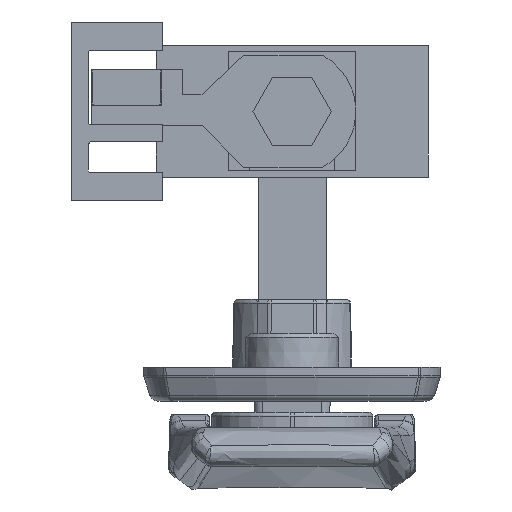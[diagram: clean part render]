
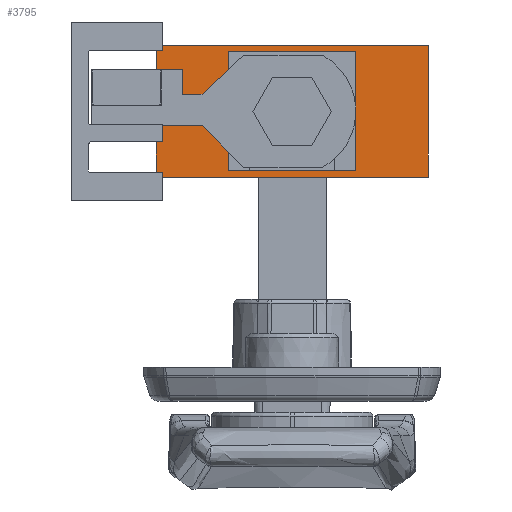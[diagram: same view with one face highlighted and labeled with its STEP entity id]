
A CAD part, front view. The second image highlights one B-rep face of the part: STEP entity #3795.
In plain terms, the highlighted planar face has unit normal (0, -1, 0).
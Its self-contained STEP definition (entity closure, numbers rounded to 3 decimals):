
#2016 = VECTOR ( 'NONE', #10980, 1000. ) ;
#2286 = VECTOR ( 'NONE', #13934, 1000. ) ;
#2289 = LINE ( 'NONE', #11937, #16894 ) ;
#2423 = CARTESIAN_POINT ( 'NONE',  ( -7., -72.75, -6.25 ) ) ;
#3064 = ORIENTED_EDGE ( 'NONE', *, *, #25554, .F. ) ;
#3206 = PLANE ( 'NONE',  #12695 ) ;
#3530 = DIRECTION ( 'NONE',  ( 0., 0., -1. ) ) ;
#3574 = VERTEX_POINT ( 'NONE', #7181 ) ;
#3795 = ADVANCED_FACE ( 'NONE', ( #24061, #5515 ), #3206, .F. ) ;
#4283 = EDGE_CURVE ( 'NONE', #22531, #13176, #23577, .T. ) ;
#4543 = CARTESIAN_POINT ( 'NONE',  ( 7., -72.75, -6.25 ) ) ;
#4929 = VERTEX_POINT ( 'NONE', #24161 ) ;
#5368 = DIRECTION ( 'NONE',  ( 0., 1., 0. ) ) ;
#5515 = FACE_OUTER_BOUND ( 'NONE', #10817, .T. ) ;
#5661 = VERTEX_POINT ( 'NONE', #5770 ) ;
#5770 = CARTESIAN_POINT ( 'NONE',  ( -7., -72.75, 6.25 ) ) ;
#6594 = ORIENTED_EDGE ( 'NONE', *, *, #30356, .T. ) ;
#7181 = CARTESIAN_POINT ( 'NONE',  ( 7., -72.75, 6.25 ) ) ;
#7273 = CARTESIAN_POINT ( 'NONE',  ( 16., -72.75, 7.75 ) ) ;
#7333 = VERTEX_POINT ( 'NONE', #22663 ) ;
#8986 = DIRECTION ( 'NONE',  ( 0., 0., -1. ) ) ;
#10637 = DIRECTION ( 'NONE',  ( 0., 0., 1. ) ) ;
#10817 = EDGE_LOOP ( 'NONE', ( #25196, #3064, #16440, #6594 ) ) ;
#10980 = DIRECTION ( 'NONE',  ( 0., 0., -1. ) ) ;
#11103 = CARTESIAN_POINT ( 'NONE',  ( -16., -72.75, 7.75 ) ) ;
#11937 = CARTESIAN_POINT ( 'NONE',  ( -16., -72.75, 7.75 ) ) ;
#12673 = CARTESIAN_POINT ( 'NONE',  ( -16., -72.75, 7.75 ) ) ;
#12695 = AXIS2_PLACEMENT_3D ( 'NONE', #12673, #5368, #22029 ) ;
#13022 = CARTESIAN_POINT ( 'NONE',  ( -7., -72.75, -6.25 ) ) ;
#13176 = VERTEX_POINT ( 'NONE', #4543 ) ;
#13709 = EDGE_CURVE ( 'NONE', #3574, #5661, #26835, .T. ) ;
#13825 = EDGE_CURVE ( 'NONE', #30306, #4929, #22770, .T. ) ;
#13934 = DIRECTION ( 'NONE',  ( 1., 0., 0. ) ) ;
#15144 = CARTESIAN_POINT ( 'NONE',  ( 7., -72.75, 6.25 ) ) ;
#15356 = CARTESIAN_POINT ( 'NONE',  ( -16., -72.75, 7.75 ) ) ;
#15975 = EDGE_CURVE ( 'NONE', #13176, #3574, #29482, .T. ) ;
#16096 = CARTESIAN_POINT ( 'NONE',  ( -7., -72.75, -6.25 ) ) ;
#16278 = VECTOR ( 'NONE', #24786, 1000. ) ;
#16440 = ORIENTED_EDGE ( 'NONE', *, *, #24063, .F. ) ;
#16894 = VECTOR ( 'NONE', #28429, 1000. ) ;
#16900 = VECTOR ( 'NONE', #3530, 1000. ) ;
#17939 = VECTOR ( 'NONE', #8986, 1000. ) ;
#18250 = VECTOR ( 'NONE', #10637, 1000. ) ;
#18760 = VECTOR ( 'NONE', #29332, 1000. ) ;
#19810 = CARTESIAN_POINT ( 'NONE',  ( 7., -72.75, 6.25 ) ) ;
#20015 = LINE ( 'NONE', #15356, #16900 ) ;
#21094 = EDGE_LOOP ( 'NONE', ( #26863, #27809, #27381, #26567 ) ) ;
#21434 = LINE ( 'NONE', #7273, #17939 ) ;
#22029 = DIRECTION ( 'NONE',  ( 0., 0., 1. ) ) ;
#22038 = VERTEX_POINT ( 'NONE', #11103 ) ;
#22531 = VERTEX_POINT ( 'NONE', #13022 ) ;
#22663 = CARTESIAN_POINT ( 'NONE',  ( 16., -72.75, 7.75 ) ) ;
#22770 = LINE ( 'NONE', #27441, #16278 ) ;
#23102 = LINE ( 'NONE', #16096, #2016 ) ;
#23577 = LINE ( 'NONE', #2423, #2286 ) ;
#24061 = FACE_BOUND ( 'NONE', #21094, .T. ) ;
#24063 = EDGE_CURVE ( 'NONE', #22038, #7333, #2289, .T. ) ;
#24161 = CARTESIAN_POINT ( 'NONE',  ( 16., -72.75, -7.75 ) ) ;
#24287 = EDGE_CURVE ( 'NONE', #5661, #22531, #23102, .T. ) ;
#24786 = DIRECTION ( 'NONE',  ( 1., 0., 0. ) ) ;
#25196 = ORIENTED_EDGE ( 'NONE', *, *, #13825, .T. ) ;
#25554 = EDGE_CURVE ( 'NONE', #7333, #4929, #21434, .T. ) ;
#26567 = ORIENTED_EDGE ( 'NONE', *, *, #4283, .F. ) ;
#26835 = LINE ( 'NONE', #15144, #18760 ) ;
#26863 = ORIENTED_EDGE ( 'NONE', *, *, #24287, .F. ) ;
#27381 = ORIENTED_EDGE ( 'NONE', *, *, #15975, .F. ) ;
#27441 = CARTESIAN_POINT ( 'NONE',  ( -16., -72.75, -7.75 ) ) ;
#27809 = ORIENTED_EDGE ( 'NONE', *, *, #13709, .F. ) ;
#28429 = DIRECTION ( 'NONE',  ( 1., 0., 0. ) ) ;
#29332 = DIRECTION ( 'NONE',  ( -1., 0., 0. ) ) ;
#29482 = LINE ( 'NONE', #19810, #18250 ) ;
#29528 = CARTESIAN_POINT ( 'NONE',  ( -16., -72.75, -7.75 ) ) ;
#30306 = VERTEX_POINT ( 'NONE', #29528 ) ;
#30356 = EDGE_CURVE ( 'NONE', #22038, #30306, #20015, .T. ) ;
